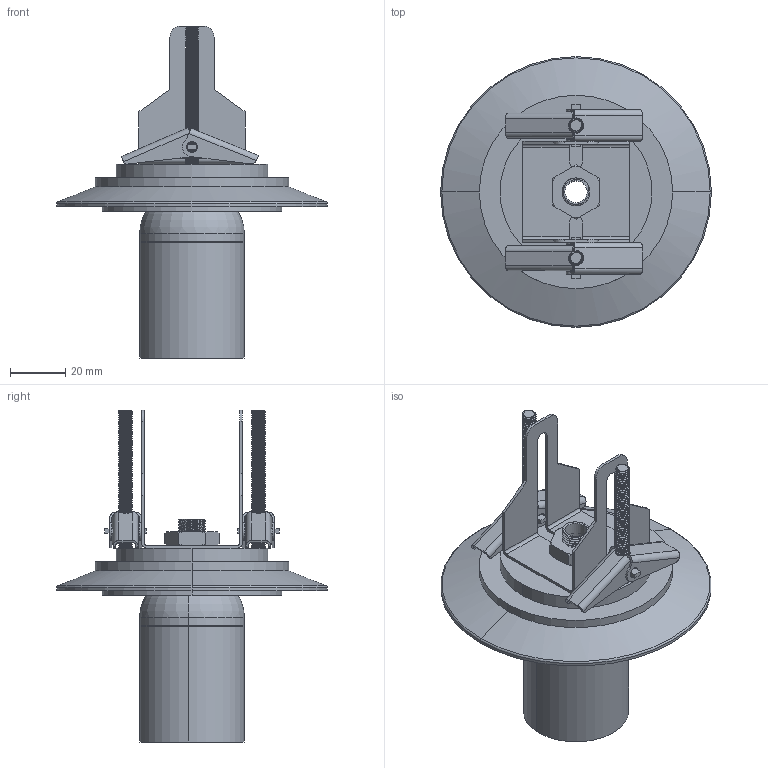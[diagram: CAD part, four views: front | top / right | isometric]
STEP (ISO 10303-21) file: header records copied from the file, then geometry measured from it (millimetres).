
FILE_DESCRIPTION (( 'STEP AP203' ), '1' );
FILE_NAME ('PARMA - E3946082.STEP', '2026-02-13T12:32:01', ( '' ), ( '' ), 'SwSTEP 2.0', 'SolidWorks 2025', '' );
FILE_SCHEMA (( 'CONFIG_CONTROL_DESIGN' ));
Length unit declared in the file: millimetre
Products named in the file (7): Empotrable E27 Parma Shifa V2; PARMA - E3946082; PLETINA; BALANCIN_Apretado; TIJA M10 CONFIG_M10x40; Portalamparas E27 Parma; TUERCA HEXAGONAL_Tuerca Hexagonal M10
Assembly tree (7 placements, depth 2):
  PARMA - E3946082
    Empotrable E27 Parma Shifa V2
    PLETINA
    BALANCIN_Apretado  x2
    TIJA M10 CONFIG_M10x40
    TUERCA HEXAGONAL_Tuerca Hexagonal M10
    Portalamparas E27 Parma
Bounding box: 98 x 98 x 120.14 mm (x, y, z)
Volume: 89786.4 mm3; surface area: 59177.2 mm2
Topology: 12 solids, 12 shells, 701 faces, 1972 edges, 1290 vertices
Faces by surface type: cylinder 510, plane 148, cone 16, torus 14, bspline 13
Entity records: 29925 total; most frequent: CARTESIAN_POINT 18767, ORIENTED_EDGE 2550, DIRECTION 1860, EDGE_CURVE 1275, VERTEX_POINT 833, AXIS2_PLACEMENT_3D 670, LINE 520, VECTOR 520
